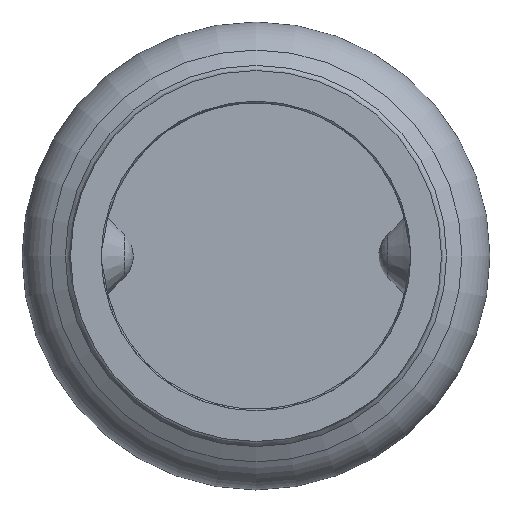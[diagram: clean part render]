
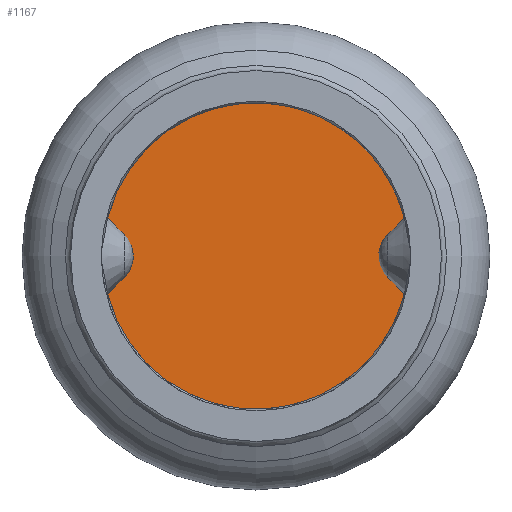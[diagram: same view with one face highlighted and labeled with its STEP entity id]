
A CAD part, left-side view. The second image highlights one B-rep face of the part: STEP entity #1167.
In plain terms, the highlighted planar face has unit normal (-1, 0, 0) as drawn and (0, 0, -1) by its records, which use the part's own axes.
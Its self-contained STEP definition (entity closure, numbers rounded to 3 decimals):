
#1138=CARTESIAN_POINT('',(0.75,0.,0.0));
#1139=VERTEX_POINT('',#1138);
#1140=CARTESIAN_POINT('',(-8.25,0.0,0.0));
#1141=DIRECTION('',(0.0,0.0,-1.0));
#1142=DIRECTION('',(-1.0,0.0,0.0));
#1143=AXIS2_PLACEMENT_3D('',#1140,#1141,#1142);
#1144=CIRCLE('',#1143,9.);
#1145=EDGE_CURVE('',#1139,#1139,#1144,.T.);
#1159=CARTESIAN_POINT('',(-8.25,0.0,0.0));
#1160=DIRECTION('',(0.0,0.0,-1.0));
#1161=DIRECTION('',(-1.0,0.0,0.0));
#1162=AXIS2_PLACEMENT_3D('',#1159,#1160,#1161);
#1163=PLANE('',#1162);
#1164=ORIENTED_EDGE('',*,*,#1145,.T.);
#1165=EDGE_LOOP('',(#1164));
#1166=FACE_OUTER_BOUND('',#1165,.T.);
#1167=ADVANCED_FACE('',(#1166),#1163,.T.);
